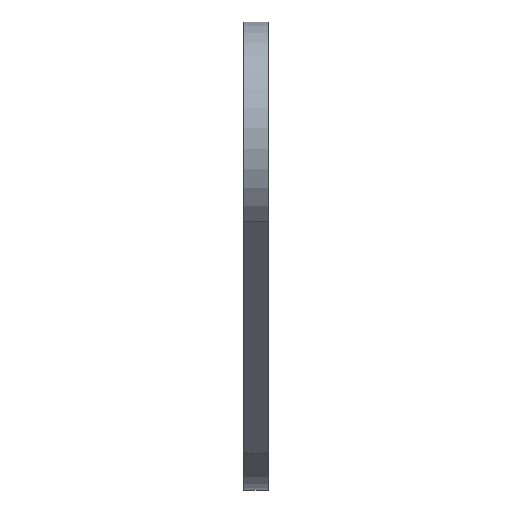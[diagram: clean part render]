
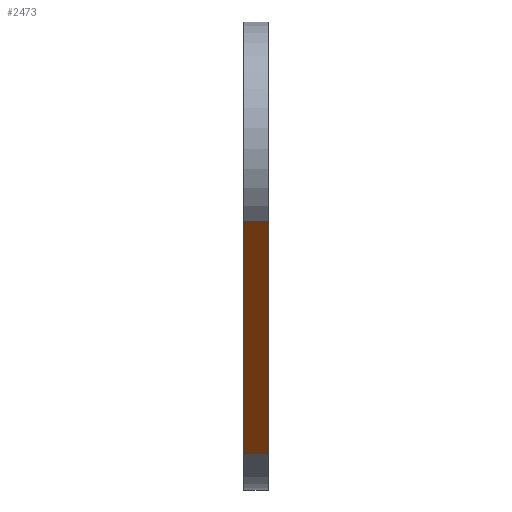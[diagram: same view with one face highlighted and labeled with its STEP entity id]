
A CAD part, left-side view. The second image highlights one B-rep face of the part: STEP entity #2473.
In plain terms, the highlighted planar face has unit normal (-0.707, 0, -0.707).
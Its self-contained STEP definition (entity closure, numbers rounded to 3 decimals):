
#335 = LINE ( 'NONE', #1118, #2955 ) ;
#340 = DIRECTION ( 'NONE',  ( -0.707, 0., 0.707 ) ) ;
#371 = CARTESIAN_POINT ( 'NONE',  ( -20.153, 6., -20.153 ) ) ;
#662 = LINE ( 'NONE', #3768, #804 ) ;
#804 = VECTOR ( 'NONE', #4577, 1000. ) ;
#1049 = VERTEX_POINT ( 'NONE', #5690 ) ;
#1118 = CARTESIAN_POINT ( 'NONE',  ( 36.408, 6., -76.713 ) ) ;
#1123 = LINE ( 'NONE', #4313, #2036 ) ;
#1204 = VERTEX_POINT ( 'NONE', #2792 ) ;
#1237 = FACE_OUTER_BOUND ( 'NONE', #4925, .T. ) ;
#1239 = ORIENTED_EDGE ( 'NONE', *, *, #5278, .T. ) ;
#1257 = LINE ( 'NONE', #4789, #3481 ) ;
#1790 = CARTESIAN_POINT ( 'NONE',  ( 36.408, 0., -76.713 ) ) ;
#1877 = ORIENTED_EDGE ( 'NONE', *, *, #3178, .T. ) ;
#2036 = VECTOR ( 'NONE', #3796, 1000. ) ;
#2090 = EDGE_CURVE ( 'NONE', #1049, #3034, #1257, .T. ) ;
#2438 = CARTESIAN_POINT ( 'NONE',  ( -20.153, 6., -20.153 ) ) ;
#2473 = ADVANCED_FACE ( 'NONE', ( #1237 ), #5258, .T. ) ;
#2792 = CARTESIAN_POINT ( 'NONE',  ( 36.408, 6., -76.713 ) ) ;
#2880 = DIRECTION ( 'NONE',  ( 0., -1., 0. ) ) ;
#2955 = VECTOR ( 'NONE', #2880, 1000. ) ;
#3030 = DIRECTION ( 'NONE',  ( 0.707, 0., -0.707 ) ) ;
#3034 = VERTEX_POINT ( 'NONE', #1790 ) ;
#3178 = EDGE_CURVE ( 'NONE', #4774, #1204, #662, .T. ) ;
#3471 = AXIS2_PLACEMENT_3D ( 'NONE', #371, #3821, #340 ) ;
#3481 = VECTOR ( 'NONE', #3030, 1000. ) ;
#3716 = ORIENTED_EDGE ( 'NONE', *, *, #4927, .F. ) ;
#3768 = CARTESIAN_POINT ( 'NONE',  ( -20.153, 6., -20.153 ) ) ;
#3796 = DIRECTION ( 'NONE',  ( 0., -1., 0. ) ) ;
#3821 = DIRECTION ( 'NONE',  ( -0.707, 0., -0.707 ) ) ;
#4313 = CARTESIAN_POINT ( 'NONE',  ( -20.153, 6., -20.153 ) ) ;
#4577 = DIRECTION ( 'NONE',  ( 0.707, 0., -0.707 ) ) ;
#4774 = VERTEX_POINT ( 'NONE', #2438 ) ;
#4789 = CARTESIAN_POINT ( 'NONE',  ( -20.153, 0., -20.153 ) ) ;
#4925 = EDGE_LOOP ( 'NONE', ( #1877, #1239, #5345, #3716 ) ) ;
#4927 = EDGE_CURVE ( 'NONE', #4774, #1049, #1123, .T. ) ;
#5258 = PLANE ( 'NONE',  #3471 ) ;
#5278 = EDGE_CURVE ( 'NONE', #1204, #3034, #335, .T. ) ;
#5345 = ORIENTED_EDGE ( 'NONE', *, *, #2090, .F. ) ;
#5690 = CARTESIAN_POINT ( 'NONE',  ( -20.153, 0., -20.153 ) ) ;
